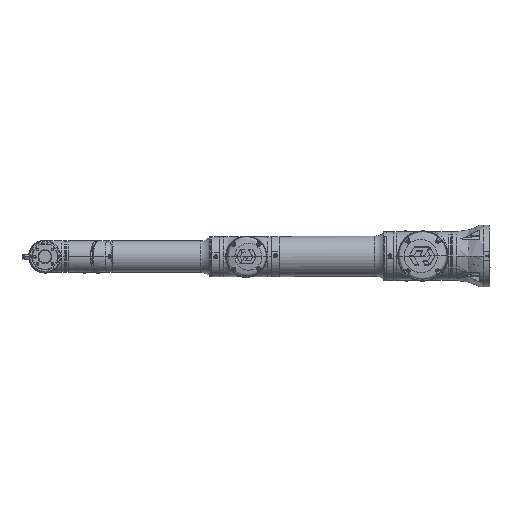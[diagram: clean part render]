
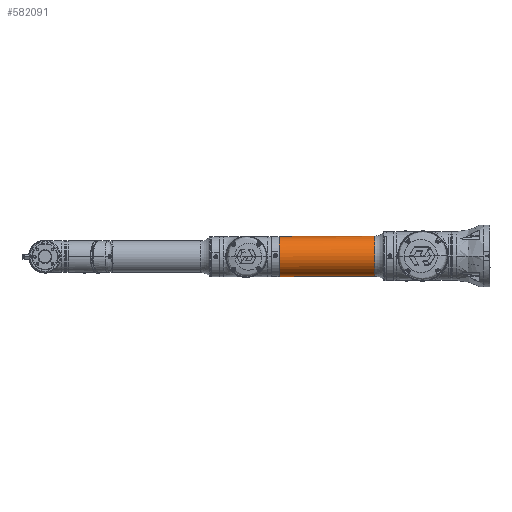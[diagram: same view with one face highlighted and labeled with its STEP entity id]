
A CAD part, left-side view. The second image highlights one B-rep face of the part: STEP entity #582091.
In plain terms, the highlighted cylindrical face has radius 48.5 mm (diameter 97 mm), a partial arc.
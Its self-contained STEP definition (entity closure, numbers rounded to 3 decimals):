
#56 = ORIENTED_EDGE ( 'NONE', *, *, #378013, .T. ) ;
#35399 = CARTESIAN_POINT ( 'NONE',  ( 116.701, 0., 0. ) ) ;
#71063 = EDGE_CURVE ( 'NONE', #417127, #307151, #457446, .T. ) ;
#95218 = DIRECTION ( 'NONE',  ( 0., 1., 0. ) ) ;
#117814 = CARTESIAN_POINT ( 'NONE',  ( 160.202, 48.5, 0. ) ) ;
#192933 = VECTOR ( 'NONE', #480704, 1000. ) ;
#238927 = DIRECTION ( 'NONE',  ( 1., 0., 0. ) ) ;
#257721 = CARTESIAN_POINT ( 'NONE',  ( 116.701, 48.5, 0. ) ) ;
#288085 = ORIENTED_EDGE ( 'NONE', *, *, #390588, .F. ) ;
#296907 = DIRECTION ( 'NONE',  ( 1., 0., 0. ) ) ;
#301258 = CARTESIAN_POINT ( 'NONE',  ( 347.7, 0., 0. ) ) ;
#307151 = VERTEX_POINT ( 'NONE', #257721 ) ;
#358682 = CARTESIAN_POINT ( 'NONE',  ( 160.202, -48.5, 0. ) ) ;
#378013 = EDGE_CURVE ( 'NONE', #307151, #542652, #678890, .T. ) ;
#390588 = EDGE_CURVE ( 'NONE', #764352, #542652, #433170, .T. ) ;
#396078 = DIRECTION ( 'NONE',  ( 0., -1., 0. ) ) ;
#404074 = ORIENTED_EDGE ( 'NONE', *, *, #543956, .F. ) ;
#408201 = CARTESIAN_POINT ( 'NONE',  ( 116.701, -48.5, 0. ) ) ;
#417127 = VERTEX_POINT ( 'NONE', #408201 ) ;
#433170 = CIRCLE ( 'NONE', #450632, 48.5 ) ;
#450632 = AXIS2_PLACEMENT_3D ( 'NONE', #301258, #238927, #587310 ) ;
#451000 = DIRECTION ( 'NONE',  ( 1., 0., 0. ) ) ;
#457446 = CIRCLE ( 'NONE', #697638, 48.5 ) ;
#480704 = DIRECTION ( 'NONE',  ( 1., 0., 0. ) ) ;
#491866 = CARTESIAN_POINT ( 'NONE',  ( 347.7, 48.5, 0. ) ) ;
#520876 = VECTOR ( 'NONE', #296907, 1000. ) ;
#530239 = AXIS2_PLACEMENT_3D ( 'NONE', #697463, #751922, #396078 ) ;
#540826 = CARTESIAN_POINT ( 'NONE',  ( 347.7, -48.5, 0. ) ) ;
#542652 = VERTEX_POINT ( 'NONE', #491866 ) ;
#543956 = EDGE_CURVE ( 'NONE', #417127, #764352, #592609, .T. ) ;
#582091 = ADVANCED_FACE ( 'NONE', ( #635918 ), #718651, .T. ) ;
#587310 = DIRECTION ( 'NONE',  ( 0., -1., 0. ) ) ;
#592609 = LINE ( 'NONE', #358682, #192933 ) ;
#635918 = FACE_OUTER_BOUND ( 'NONE', #759555, .T. ) ;
#667293 = ORIENTED_EDGE ( 'NONE', *, *, #71063, .T. ) ;
#678890 = LINE ( 'NONE', #117814, #520876 ) ;
#697463 = CARTESIAN_POINT ( 'NONE',  ( 160.202, 0., 0. ) ) ;
#697638 = AXIS2_PLACEMENT_3D ( 'NONE', #35399, #451000, #95218 ) ;
#718651 = CYLINDRICAL_SURFACE ( 'NONE', #530239, 48.5 ) ;
#751922 = DIRECTION ( 'NONE',  ( 1., 0., 0. ) ) ;
#759555 = EDGE_LOOP ( 'NONE', ( #667293, #56, #288085, #404074 ) ) ;
#764352 = VERTEX_POINT ( 'NONE', #540826 ) ;
